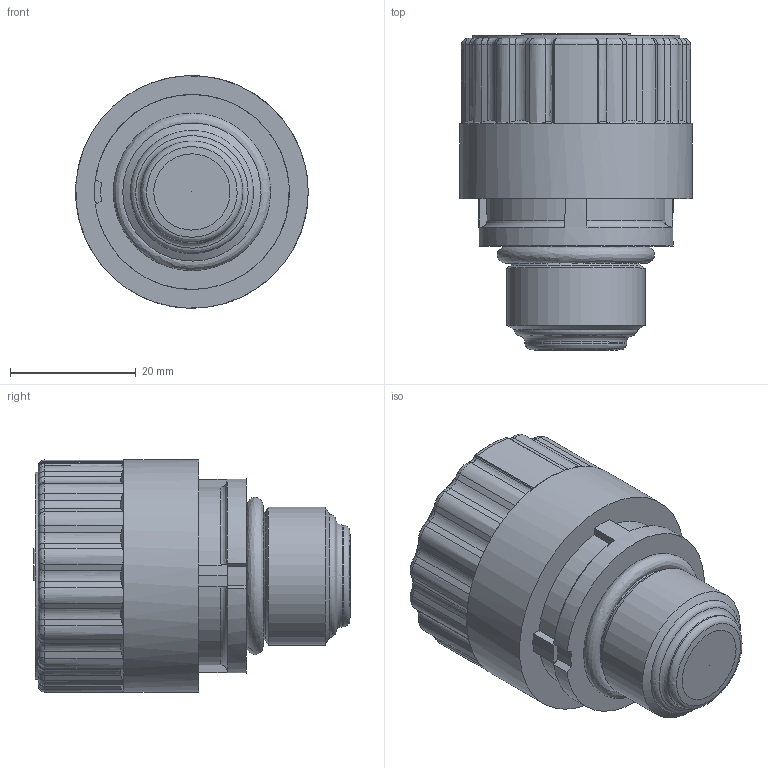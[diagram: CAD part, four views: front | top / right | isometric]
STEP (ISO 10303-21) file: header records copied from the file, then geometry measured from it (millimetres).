
FILE_DESCRIPTION((''),'2;1');
FILE_NAME('U:\Users\r.stiegele\11927300(237978).stp', '2014-03-11T07:54:30',('User'),('SDRC'),'I-DEAS Master Series 9','UNIX', 'Yes');
FILE_SCHEMA(('AUTOMOTIVE_DESIGN { 1 0 10303 214 1 1 1 1 }'));
Length unit declared in the file: millimetre
Products named in the file (1): 11927300(237978)
Bounding box: 36.97 x 50.4 x 36.99 mm (x, y, z)
Volume: 38570.5 mm3; surface area: 7453.8 mm2
Topology: 1 solids, 1 shells, 442 faces, 1180 edges, 754 vertices
Faces by surface type: bspline 442
Entity records: 13721 total; most frequent: CARTESIAN_POINT 6779, ORIENTED_EDGE 2350, EDGE_CURVE 1175, VERTEX_POINT 754, B_SPLINE_CURVE_WITH_KNOTS 565, EDGE_LOOP 461, FACE_OUTER_BOUND 442, ADVANCED_FACE 442
